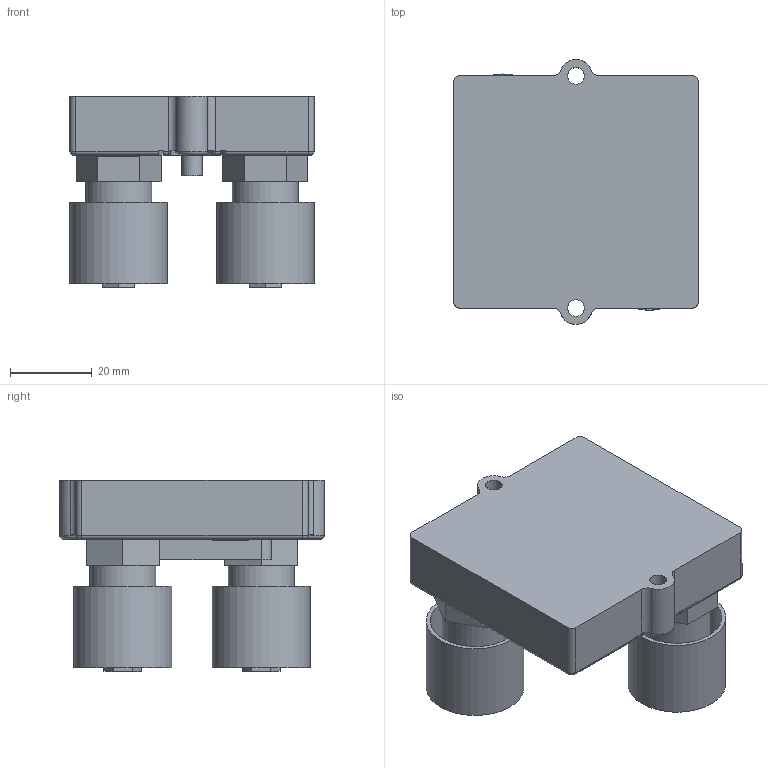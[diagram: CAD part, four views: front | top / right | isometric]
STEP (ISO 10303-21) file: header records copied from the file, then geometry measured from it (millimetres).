
FILE_DESCRIPTION(('STEP AP203'), '1');
FILE_NAME('Ð1-150Ì-È1', '', ('UNSPECIFIED'), ('UNSPECIFIED'), 'C3D Converter', 'C3D Toolkit', '');
FILE_SCHEMA(('CONFIG_CONTROL_DESIGN'));
Length unit declared in the file: millimetre
Assembly tree (2 placements, depth 2):
  (unnamed)
    (unnamed)  x2
Bounding box: 60 x 65 x 47 mm (x, y, z)
Volume: 64406.4 mm3; surface area: 28041.9 mm2
Topology: 3 solids, 7 shells, 184 faces, 431 edges, 278 vertices
Faces by surface type: plane 104, cylinder 52, cone 18, torus 10
Full cylindrical faces by diameter (mm): 4.1 x2, 5 x2, 7 x4, 8 x2, 12 x4, 16.2 x4, 22 x2, 24 x2
Entity records: 7481 total; most frequent: CARTESIAN_POINT 1971, DIRECTION 823, ORIENTED_EDGE 780, EDGE_CURVE 390, AXIS2_PLACEMENT_3D 297, VERTEX_POINT 267, EDGE_LOOP 229, LINE 229
